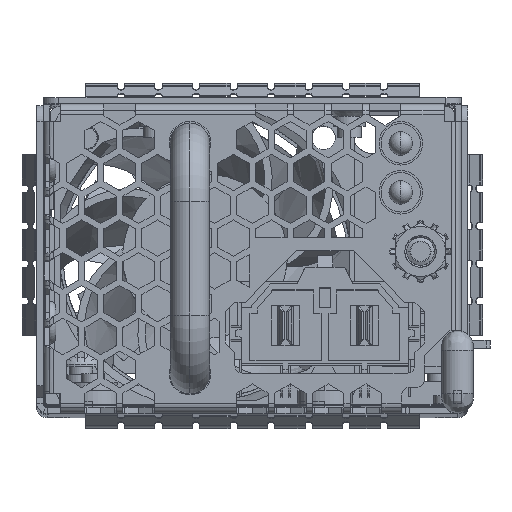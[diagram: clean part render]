
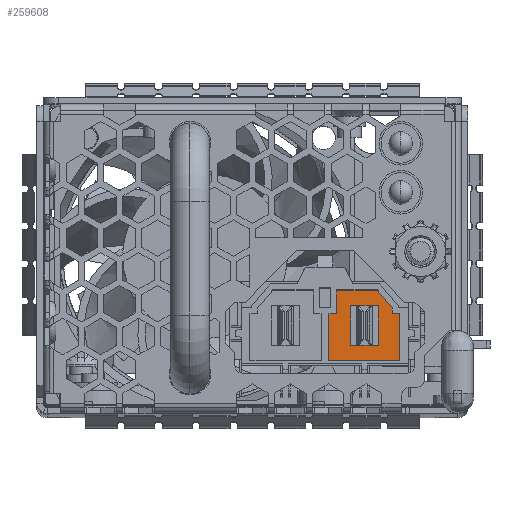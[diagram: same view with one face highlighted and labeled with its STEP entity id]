
A CAD part, top view. The second image highlights one B-rep face of the part: STEP entity #259608.
In plain terms, the highlighted planar face has unit normal (0, 0, 1).
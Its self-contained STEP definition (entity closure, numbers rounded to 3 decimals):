
#250418=DIRECTION('',(0.,1.,0.));
#250419=VECTOR('',#250418,6.);
#250420=CARTESIAN_POINT('',(-32.885,-84.16,-39.111));
#250421=LINE('',#250420,#250419);
#250439=DIRECTION('',(-1.,0.,0.));
#250440=VECTOR('',#250439,9.);
#250441=CARTESIAN_POINT('',(-32.885,-84.16,-39.111));
#250442=LINE('',#250441,#250440);
#250446=DIRECTION('',(0.,1.,0.));
#250447=VECTOR('',#250446,6.);
#250448=CARTESIAN_POINT('',(-41.885,-84.16,-39.111));
#250449=LINE('',#250448,#250447);
#250453=DIRECTION('',(1.,0.,0.));
#250454=VECTOR('',#250453,1.);
#250455=CARTESIAN_POINT('',(-41.885,-78.16,-39.111));
#250456=LINE('',#250455,#250454);
#250460=DIRECTION('',(0.,1.,0.));
#250461=VECTOR('',#250460,3.);
#250462=CARTESIAN_POINT('',(-40.885,-78.16,-39.111));
#250463=LINE('',#250462,#250461);
#250467=DIRECTION('',(1.,0.,0.));
#250468=VECTOR('',#250467,5.112);
#250469=CARTESIAN_POINT('',(-40.885,-75.16,-39.111));
#250470=LINE('',#250469,#250468);
#250474=DIRECTION('',(0.643,-0.766,0.));
#250475=VECTOR('',#250474,2.937);
#250476=CARTESIAN_POINT('',(-35.773,-75.16,-39.111));
#250477=LINE('',#250476,#250475);
#250481=DIRECTION('',(0.,-1.,0.));
#250482=VECTOR('',#250481,0.75);
#250483=CARTESIAN_POINT('',(-33.885,-77.41,-39.111));
#250484=LINE('',#250483,#250482);
#250488=DIRECTION('',(1.,0.,0.));
#250489=VECTOR('',#250488,1.);
#250490=CARTESIAN_POINT('',(-33.885,-78.16,-39.111));
#250491=LINE('',#250490,#250489);
#250509=DIRECTION('',(0.,1.,0.));
#250510=VECTOR('',#250509,5.);
#250511=CARTESIAN_POINT('',(-39.135,-82.16,-39.111));
#250512=LINE('',#250511,#250510);
#250523=DIRECTION('',(1.,0.,0.));
#250524=VECTOR('',#250523,3.5);
#250525=CARTESIAN_POINT('',(-39.135,-77.16,-39.111));
#250526=LINE('',#250525,#250524);
#250537=DIRECTION('',(0.,-1.,0.));
#250538=VECTOR('',#250537,5.);
#250539=CARTESIAN_POINT('',(-35.635,-77.16,-39.111));
#250540=LINE('',#250539,#250538);
#250551=DIRECTION('',(-1.,0.,0.));
#250552=VECTOR('',#250551,3.5);
#250553=CARTESIAN_POINT('',(-35.635,-82.16,-39.111));
#250554=LINE('',#250553,#250552);
#252586=CARTESIAN_POINT('',(-41.885,-78.16,-39.111));
#252587=VERTEX_POINT('',#252586);
#252588=CARTESIAN_POINT('',(-41.885,-84.16,-39.111));
#252589=VERTEX_POINT('',#252588);
#252590=CARTESIAN_POINT('',(-40.885,-78.16,-39.111));
#252591=VERTEX_POINT('',#252590);
#252592=CARTESIAN_POINT('',(-40.885,-75.16,-39.111));
#252593=VERTEX_POINT('',#252592);
#252594=CARTESIAN_POINT('',(-35.773,-75.16,-39.111));
#252595=VERTEX_POINT('',#252594);
#252596=CARTESIAN_POINT('',(-33.885,-77.41,-39.111));
#252597=VERTEX_POINT('',#252596);
#252598=CARTESIAN_POINT('',(-33.885,-78.16,-39.111));
#252599=VERTEX_POINT('',#252598);
#252600=CARTESIAN_POINT('',(-32.885,-78.16,-39.111));
#252601=VERTEX_POINT('',#252600);
#252602=CARTESIAN_POINT('',(-32.885,-84.16,-39.111));
#252603=VERTEX_POINT('',#252602);
#252604=CARTESIAN_POINT('',(-39.135,-82.16,-39.111));
#252605=CARTESIAN_POINT('',(-39.135,-77.16,-39.111));
#252606=VERTEX_POINT('',#252604);
#252607=VERTEX_POINT('',#252605);
#252608=CARTESIAN_POINT('',(-35.635,-82.16,-39.111));
#252609=VERTEX_POINT('',#252608);
#252610=CARTESIAN_POINT('',(-35.635,-77.16,-39.111));
#252611=VERTEX_POINT('',#252610);
#259581=CARTESIAN_POINT('',(-42.385,-79.66,-39.111));
#259582=DIRECTION('',(0.,0.,1.));
#259583=DIRECTION('',(1.,0.,0.));
#259584=AXIS2_PLACEMENT_3D('',#259581,#259582,#259583);
#259585=PLANE('',#259584);
#259586=ORIENTED_EDGE('',*,*,#259565,.F.);
#259588=ORIENTED_EDGE('',*,*,#259587,.T.);
#259589=ORIENTED_EDGE('',*,*,#259420,.T.);
#259590=ORIENTED_EDGE('',*,*,#259442,.T.);
#259591=ORIENTED_EDGE('',*,*,#259463,.T.);
#259592=ORIENTED_EDGE('',*,*,#259484,.T.);
#259593=ORIENTED_EDGE('',*,*,#259505,.T.);
#259594=ORIENTED_EDGE('',*,*,#259526,.T.);
#259595=ORIENTED_EDGE('',*,*,#259547,.T.);
#259596=EDGE_LOOP('',(#259586,#259588,#259589,#259590,#259591,#259592,#259593,
#259594,#259595));
#259597=FACE_OUTER_BOUND('',#259596,.F.);
#259599=ORIENTED_EDGE('',*,*,#259598,.F.);
#259601=ORIENTED_EDGE('',*,*,#259600,.F.);
#259603=ORIENTED_EDGE('',*,*,#259602,.F.);
#259605=ORIENTED_EDGE('',*,*,#259604,.F.);
#259606=EDGE_LOOP('',(#259599,#259601,#259603,#259605));
#259607=FACE_BOUND('',#259606,.F.);
#259608=ADVANCED_FACE('',(#259597,#259607),#259585,.T.);
#259420=EDGE_CURVE('',#252589,#252587,#250449,.T.);
#259442=EDGE_CURVE('',#252587,#252591,#250456,.T.);
#259463=EDGE_CURVE('',#252591,#252593,#250463,.T.);
#259484=EDGE_CURVE('',#252593,#252595,#250470,.T.);
#259505=EDGE_CURVE('',#252595,#252597,#250477,.T.);
#259526=EDGE_CURVE('',#252597,#252599,#250484,.T.);
#259547=EDGE_CURVE('',#252599,#252601,#250491,.T.);
#259565=EDGE_CURVE('',#252603,#252601,#250421,.T.);
#259587=EDGE_CURVE('',#252603,#252589,#250442,.T.);
#259598=EDGE_CURVE('',#252606,#252607,#250512,.T.);
#259600=EDGE_CURVE('',#252609,#252606,#250554,.T.);
#259602=EDGE_CURVE('',#252611,#252609,#250540,.T.);
#259604=EDGE_CURVE('',#252607,#252611,#250526,.T.);
